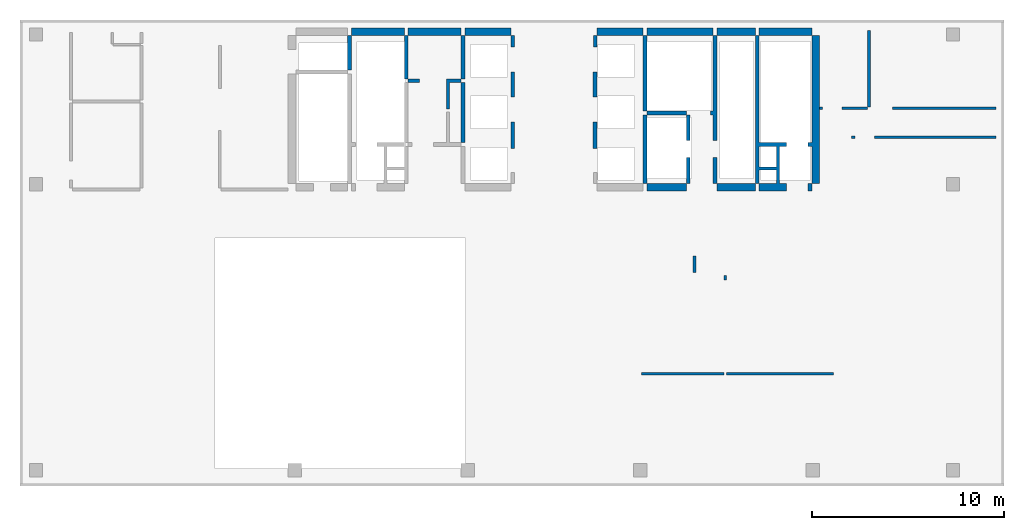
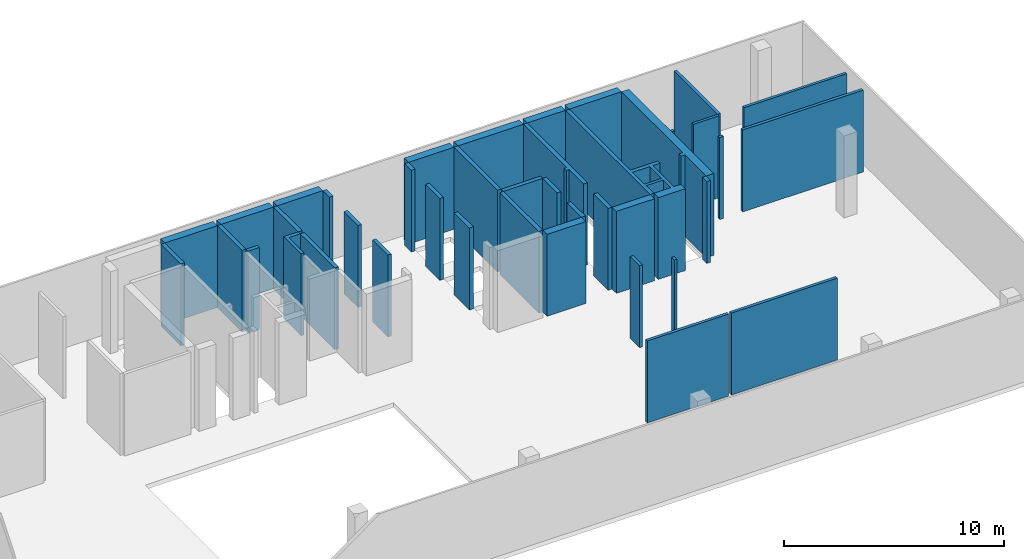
# One storey, part 2 of 3: 41 walls.
"""IFC4 building model written with IfcOpenShell, lengths in millimetres."""

from ifc_helpers import new_model, si_unit, frame, origin, place, context, project, spatial, triangles, element, save


model = new_model("IFC4")

# Units and contexts
model_context = context("Model", 3, precision=0.001, world=origin())
ifc_project = project(units=[si_unit("LENGTHUNIT", "METRE", prefix="MILLI"), si_unit("AREAUNIT", "SQUARE_METRE"), si_unit("VOLUMEUNIT", "CUBIC_METRE")], contexts=[model_context])

# Site, building, storey
site_placement = place(None, origin())
site = spatial("IfcSite", under=ifc_project, at=site_placement, Name="Site", CompositionType="ELEMENT")
building_placement = place(site_placement, origin())
building = spatial("IfcBuilding", under=site, at=building_placement, Name="INNOCEAN", CompositionType="ELEMENT")
storey_placement = place(building_placement, frame((0.0, 0.0, 11000.0)))
storey = spatial("IfcBuildingStorey", under=building, at=storey_placement, Name="F03", CompositionType="ELEMENT", Elevation=11000.0)

# Walls
wall_1_placement = place(storey_placement, origin())
element("IfcWall", 1, at=wall_1_placement, inside=storey, Name="F03_Walls_F03_017", context=model_context, shape_type="Tessellation", body=[
    triangles([(16429.3, 25025.8, 0.0), (16226.2, 25025.8, 0.0), (16226.2, 25025.8, 4550.0), (16429.3, 25025.8, 4550.0), (16429.3, 23222.2, 0.0), (16429.3, 23222.2, 4550.0), (16226.2, 23222.2, 0.0), (16226.2, 23222.2, 4550.0)], [[1, 2, 3], [1, 3, 4], [5, 1, 4], [5, 4, 6], [7, 5, 6], [7, 6, 8], [2, 7, 8], [2, 8, 3], [2, 1, 5], [2, 5, 7], [4, 3, 6], [6, 3, 8]], closed=True),
])
wall_2_placement = place(storey_placement, origin())
element("IfcWall", 2, at=wall_2_placement, inside=storey, Name="F03_Walls_F03_028", context=model_context, shape_type="Tessellation", body=[
    triangles([(24730.0, 19120.0, 0.0), (24730.6, 19120.0, 0.0), (24730.6, 19120.0, 4550.0), (24730.0, 19120.0, 4550.0), (24730.0, 20515.0, 4550.0), (24730.0, 20515.0, 0.0), (24730.6, 20515.0, 0.0), (24730.6, 20515.0, 4550.0), (24730.6, 20516.8, 0.0), (24730.6, 20516.8, 4550.0), (24921.0, 20516.8, 4550.0), (24921.0, 20516.8, 0.0), (24921.0, 19119.7, 0.0), (24921.0, 19119.7, 4550.0), (24730.6, 19119.7, 4550.0), (24730.6, 19119.7, 0.0)], [[1, 2, 3], [1, 3, 4], [1, 4, 5], [6, 1, 5], [7, 6, 5], [7, 5, 8], [9, 7, 8], [9, 8, 10], [9, 10, 11], [12, 9, 11], [13, 12, 11], [13, 11, 14], [13, 14, 15], [16, 13, 15], [2, 16, 15], [2, 15, 3], [2, 13, 16], [7, 12, 13], [7, 13, 2], [6, 2, 1], [6, 7, 2], [9, 12, 7], [14, 3, 15], [11, 8, 14], [14, 8, 3], [3, 5, 4], [8, 5, 3], [11, 10, 8]], closed=True),
])
wall_3_placement = place(storey_placement, origin())
element("IfcWall", 3, at=wall_3_placement, inside=storey, Name="F03_Walls_F03_030", context=model_context, shape_type="Tessellation", body=[
    triangles([(22331.6, 19449.9, 0.0), (22331.6, 22574.4, 0.0), (22331.6, 22574.4, 4550.0), (22331.6, 19449.9, 4550.0), (22128.5, 19449.9, 0.0), (22128.5, 19449.9, 4550.0), (22128.5, 22574.4, 0.0), (22128.5, 22574.4, 4550.0)], [[1, 2, 3], [1, 3, 4], [5, 1, 4], [5, 4, 6], [7, 5, 6], [7, 6, 8], [2, 7, 8], [2, 8, 3], [2, 1, 5], [7, 2, 5], [4, 3, 6], [3, 8, 6]], closed=True),
])
wall_4_placement = place(storey_placement, origin())
element("IfcWall", 4, at=wall_4_placement, inside=storey, Name="F03_Walls_F03_031", context=model_context, shape_type="Tessellation", body=[
    triangles([(22128.5, 22765.0, 0.0), (21366.9, 22765.0, 0.0), (21366.9, 22765.0, 4550.0), (22128.5, 22765.0, 4550.0), (22128.5, 22574.4, 0.0), (22128.5, 22574.4, 4550.0), (21519.3, 22574.4, 0.0), (21519.3, 22574.4, 4550.0), (21519.3, 21177.3, 4550.0), (21519.3, 21177.3, 0.0), (21366.9, 21177.3, 0.0), (21366.9, 21177.3, 4550.0), (21366.9, 22574.4, 4550.0), (21366.9, 22574.4, 0.0)], [[1, 2, 3], [1, 3, 4], [5, 1, 4], [5, 4, 6], [7, 5, 6], [7, 6, 8], [7, 8, 9], [10, 7, 9], [11, 10, 9], [11, 9, 12], [11, 12, 13], [14, 11, 13], [2, 14, 13], [2, 13, 3], [7, 1, 5], [14, 7, 10], [14, 10, 11], [2, 1, 7], [2, 7, 14], [4, 8, 6], [8, 13, 9], [9, 13, 12], [4, 3, 8], [8, 3, 13]], closed=True),
])
wall_5_placement = place(storey_placement, origin())
element("IfcWall", 5, at=wall_5_placement, inside=storey, Name="F03_Walls_F03_032", context=model_context, shape_type="Tessellation", body=[
    triangles([(24730.6, 23120.6, 0.0), (24730.6, 23120.0, 0.0), (24730.6, 23120.0, 4550.0), (24730.6, 23120.6, 4550.0), (24921.0, 23120.6, 4550.0), (24921.0, 23120.6, 0.0), (24921.0, 21825.1, 0.0), (24921.0, 21825.1, 4550.0), (24920.0, 21825.1, 0.0), (24920.0, 21825.1, 4550.0), (24920.0, 21825.0, 0.0), (24920.0, 21825.0, 4550.0), (24730.0, 21825.0, 0.0), (24730.0, 21825.0, 4550.0), (24730.0, 23120.0, 0.0), (24730.0, 23120.0, 4550.0)], [[1, 2, 3], [1, 3, 4], [1, 4, 5], [6, 1, 5], [7, 6, 5], [7, 5, 8], [9, 7, 8], [9, 8, 10], [11, 9, 10], [11, 10, 12], [13, 11, 12], [13, 12, 14], [15, 13, 14], [15, 14, 16], [2, 15, 16], [2, 16, 3], [13, 9, 11], [6, 7, 9], [2, 6, 9], [2, 9, 13], [1, 6, 2], [15, 2, 13], [10, 14, 12], [8, 5, 10], [5, 3, 10], [10, 3, 14], [5, 4, 3], [3, 16, 14]], closed=True),
])
wall_6_placement = place(storey_placement, origin())
element("IfcWall", 6, at=wall_6_placement, inside=storey, Name="F03_Walls_F03_033", context=model_context, shape_type="Tessellation", body=[
    triangles([(19374.1, 22574.4, 0.0), (19970.7, 22574.4, 0.0), (19970.7, 22574.4, 4550.0), (19374.1, 22574.4, 4550.0), (19374.1, 22765.0, 0.0), (19374.1, 22765.0, 4550.0), (19970.7, 22765.0, 0.0), (19970.7, 22765.0, 4550.0)], [[1, 2, 3], [1, 3, 4], [5, 1, 4], [5, 4, 6], [7, 5, 6], [7, 6, 8], [2, 7, 8], [2, 8, 3], [5, 2, 1], [5, 7, 2], [3, 6, 4], [8, 6, 3]], closed=True),
])
wall_7_placement = place(storey_placement, origin())
element("IfcWall", 7, at=wall_7_placement, inside=storey, Name="F03_Walls_F03_034", context=model_context, shape_type="Tessellation", body=[
    triangles([(19374.1, 22765.0, 0.0), (19374.1, 25025.8, 0.0), (19374.1, 25025.8, 4550.0), (19374.1, 22765.0, 4550.0), (19183.7, 22765.0, 4550.0), (19183.7, 22765.0, 0.0), (19183.7, 25025.8, 0.0), (19183.7, 25025.8, 4550.0)], [[1, 2, 3], [1, 3, 4], [1, 4, 5], [6, 1, 5], [7, 6, 5], [7, 5, 8], [7, 8, 3], [2, 7, 3], [7, 2, 1], [7, 1, 6], [3, 8, 4], [4, 8, 5]], closed=True),
])
wall_8_placement = place(storey_placement, origin())
element("IfcWall", 8, at=wall_8_placement, inside=storey, Name="F03_Walls_F03_035", context=model_context, shape_type="Tessellation", body=[
    triangles([(22331.6, 22765.0, 0.0), (22331.6, 25025.8, 0.0), (22331.6, 25025.8, 4550.0), (22331.6, 22765.0, 4550.0), (22128.5, 22765.0, 0.0), (22128.5, 22765.0, 4550.0), (22128.5, 25025.8, 0.0), (22128.5, 25025.8, 4550.0)], [[1, 2, 3], [1, 3, 4], [5, 1, 4], [5, 4, 6], [7, 5, 6], [7, 6, 8], [2, 7, 8], [2, 8, 3], [7, 2, 1], [7, 1, 5], [3, 8, 4], [4, 8, 6]], closed=True),
])
wall_9_placement = place(storey_placement, origin())
element("IfcWall", 9, at=wall_9_placement, inside=storey, Name="F03_Walls_F03_036", context=model_context, shape_type="Tessellation", body=[
    triangles([(19183.7, 25025.8, 0.0), (19183.7, 25419.5, 0.0), (19183.7, 25419.5, 4550.0), (19183.7, 25025.8, 4550.0), (16429.3, 25025.8, 0.0), (16429.3, 25025.8, 4550.0), (16429.3, 25419.5, 0.0), (16429.3, 25419.5, 4550.0)], [[1, 2, 3], [1, 3, 4], [5, 1, 4], [5, 4, 6], [7, 5, 6], [7, 6, 8], [2, 7, 8], [2, 8, 3], [7, 2, 1], [7, 1, 5], [3, 8, 4], [4, 8, 6]], closed=True),
])
wall_10_placement = place(storey_placement, origin())
element("IfcWall", 10, at=wall_10_placement, inside=storey, Name="F03_Walls_F03_037", context=model_context, shape_type="Tessellation", body=[
    triangles([(22128.5, 25025.8, 0.0), (22128.5, 25419.5, 0.0), (22128.5, 25419.5, 4550.0), (22128.5, 25025.8, 4550.0), (19374.1, 25025.8, 0.0), (19374.1, 25025.8, 4550.0), (19374.1, 25419.5, 0.0), (19374.1, 25419.5, 4550.0)], [[1, 2, 3], [1, 3, 4], [5, 1, 4], [5, 4, 6], [7, 5, 6], [7, 6, 8], [2, 7, 8], [2, 8, 3], [7, 2, 1], [7, 1, 5], [3, 8, 4], [4, 8, 6]], closed=True),
])
wall_11_placement = place(storey_placement, origin())
element("IfcWall", 11, at=wall_11_placement, inside=storey, Name="F03_Walls_F03_038", context=model_context, shape_type="Tessellation", body=[
    triangles([(24730.6, 25025.8, 0.0), (24730.6, 25419.5, 0.0), (24730.6, 25419.5, 4550.0), (24730.6, 25025.8, 4550.0), (22331.6, 25025.8, 4550.0), (22331.6, 25025.8, 0.0), (22331.6, 25419.5, 0.0), (22331.6, 25419.5, 4550.0)], [[1, 2, 3], [1, 3, 4], [1, 4, 5], [6, 1, 5], [7, 6, 5], [7, 5, 8], [7, 8, 3], [2, 7, 3], [7, 2, 1], [7, 1, 6], [3, 8, 4], [4, 8, 5]], closed=True),
])
wall_12_placement = place(storey_placement, origin())
element("IfcWall", 12, at=wall_12_placement, inside=storey, Name="F03_Walls_F03_039", context=model_context, shape_type="Tessellation", body=[
    triangles([(35824.5, 7472.6, 0.0), (31546.9, 7472.6, 0.0), (31546.9, 7472.6, 4550.0), (35824.5, 7472.6, 4550.0), (35824.5, 7320.2, 0.0), (35824.5, 7320.2, 4550.0), (31546.9, 7320.2, 0.0), (31546.9, 7320.2, 4550.0)], [[1, 2, 3], [1, 3, 4], [5, 1, 4], [5, 4, 6], [7, 5, 6], [7, 6, 8], [2, 7, 8], [2, 8, 3], [7, 1, 5], [2, 1, 7], [4, 8, 6], [4, 3, 8]], closed=True),
])
wall_13_placement = place(storey_placement, origin())
element("IfcWall", 13, at=wall_13_placement, inside=storey, Name="F03_Walls_F03_040", context=model_context, shape_type="Tessellation", body=[
    triangles([(35964.1, 12273.7, 0.0), (35964.1, 12515.0, 0.0), (35964.1, 12515.0, 4550.0), (35964.1, 12273.7, 4550.0), (35824.5, 12273.7, 0.0), (35824.5, 12273.7, 4550.0), (35824.5, 12515.0, 0.0), (35824.5, 12515.0, 4550.0)], [[1, 2, 3], [1, 3, 4], [5, 1, 4], [5, 4, 6], [7, 5, 6], [7, 6, 8], [2, 7, 8], [2, 8, 3], [7, 2, 1], [7, 1, 5], [3, 8, 4], [4, 8, 6]], closed=True),
])
wall_14_placement = place(storey_placement, origin())
element("IfcWall", 14, at=wall_14_placement, inside=storey, Name="F03_Walls_F03_041", context=model_context, shape_type="Tessellation", body=[
    triangles([(34377.5, 12667.4, 0.0), (34377.5, 13518.4, 0.0), (34377.5, 13518.4, 4550.0), (34377.5, 12667.4, 4550.0), (34225.2, 12667.4, 0.0), (34225.2, 12667.4, 4550.0), (34225.2, 13518.4, 0.0), (34225.2, 13518.4, 4550.0)], [[1, 2, 3], [1, 3, 4], [5, 1, 4], [5, 4, 6], [7, 5, 6], [7, 6, 8], [2, 7, 8], [2, 8, 3], [7, 2, 1], [7, 1, 5], [3, 8, 4], [4, 8, 6]], closed=True),
])
wall_15_placement = place(storey_placement, origin())
element("IfcWall", 15, at=wall_15_placement, inside=storey, Name="F03_Walls_F03_043", context=model_context, shape_type="Tessellation", body=[
    triangles([(33869.8, 16922.4, 0.0), (33869.8, 17316.1, 0.0), (33869.8, 17316.1, 4550.0), (33869.8, 16922.4, 4550.0), (31826.2, 16922.4, 0.0), (31826.2, 16922.4, 4550.0), (31826.2, 17316.1, 0.0), (31826.2, 17316.1, 4550.0)], [[1, 2, 3], [1, 3, 4], [5, 1, 4], [5, 4, 6], [7, 5, 6], [7, 6, 8], [2, 7, 8], [2, 8, 3], [7, 2, 1], [7, 1, 5], [3, 8, 4], [4, 8, 6]], closed=True),
])
wall_16_placement = place(storey_placement, origin())
element("IfcWall", 16, at=wall_16_placement, inside=storey, Name="F03_Walls_F03_044", context=model_context, shape_type="Tessellation", body=[
    triangles([(37474.6, 16922.4, 0.0), (37474.6, 17316.1, 0.0), (37474.6, 17316.1, 4550.0), (37474.6, 16922.4, 4550.0), (35469.1, 16922.4, 4550.0), (35469.1, 16922.4, 0.0), (35469.1, 17316.1, 0.0), (35469.1, 17316.1, 4550.0)], [[1, 2, 3], [1, 3, 4], [1, 4, 5], [6, 1, 5], [7, 6, 5], [7, 5, 8], [7, 8, 3], [2, 7, 3], [7, 2, 1], [7, 1, 6], [3, 8, 4], [4, 8, 5]], closed=True),
])
wall_17_placement = place(storey_placement, origin())
element("IfcWall", 17, at=wall_17_placement, inside=storey, Name="F03_Walls_F03_047", context=model_context, shape_type="Tessellation", body=[
    triangles([(34072.9, 17316.1, 0.0), (34072.9, 18649.7, 0.0), (34072.9, 18649.7, 4550.0), (34072.9, 17316.1, 4550.0), (33869.8, 17316.1, 0.0), (33869.8, 17316.1, 4550.0), (33869.8, 18649.7, 0.0), (33869.8, 18649.7, 4550.0)], [[1, 2, 3], [1, 3, 4], [5, 1, 4], [5, 4, 6], [7, 5, 6], [7, 6, 8], [2, 7, 8], [2, 8, 3], [7, 2, 1], [7, 1, 5], [3, 8, 4], [4, 8, 6]], closed=True),
])
wall_18_placement = place(storey_placement, origin())
element("IfcWall", 18, at=wall_18_placement, inside=storey, Name="F03_Walls_F03_048", context=model_context, shape_type="Tessellation", body=[
    triangles([(35469.1, 17316.1, 0.0), (35469.1, 18649.7, 0.0), (35469.1, 18649.7, 4550.0), (35469.1, 17316.1, 4550.0), (35266.0, 17316.1, 0.0), (35266.0, 17316.1, 4550.0), (35266.0, 18649.7, 0.0), (35266.0, 18649.7, 4550.0)], [[1, 2, 3], [1, 3, 4], [5, 1, 4], [5, 4, 6], [7, 5, 6], [7, 6, 8], [2, 7, 8], [2, 8, 3], [7, 2, 1], [7, 1, 5], [3, 8, 4], [4, 8, 6]], closed=True),
])
wall_19_placement = place(storey_placement, origin())
element("IfcWall", 19, at=wall_19_placement, inside=storey, Name="F03_Walls_F03_049", context=model_context, shape_type="Tessellation", body=[
    triangles([(31826.2, 20872.5, 0.0), (31826.2, 20872.5, 4550.0), (31826.2, 17316.1, 4550.0), (31826.2, 17316.1, 0.0), (31623.1, 17316.1, 0.0), (31623.1, 17316.1, 4550.0), (31623.1, 20872.5, 4550.0), (31623.1, 20872.5, 0.0)], [[1, 2, 3], [4, 1, 3], [5, 4, 3], [5, 3, 6], [5, 6, 7], [8, 5, 7], [1, 8, 7], [1, 7, 2], [8, 1, 4], [8, 4, 5], [2, 7, 3], [3, 7, 6]], closed=True),
])
wall_20_placement = place(storey_placement, origin())
element("IfcWall", 20, at=wall_20_placement, inside=storey, Name="F03_Walls_F03_050", context=model_context, shape_type="Tessellation", body=[
    triangles([(29224.0, 19119.7, 0.0), (29224.0, 19120.0, 0.0), (29224.0, 19120.0, 4550.0), (29224.0, 19119.7, 4550.0), (29020.9, 19119.7, 0.0), (29020.9, 19119.7, 4550.0), (29020.9, 19120.0, 0.0), (29020.9, 19120.0, 4550.0), (29020.0, 19120.0, 4550.0), (29020.0, 19120.0, 0.0), (29020.0, 20515.0, 4550.0), (29020.0, 20515.0, 0.0), (29020.9, 20515.0, 4550.0), (29020.9, 20515.0, 0.0), (29020.9, 20516.8, 0.0), (29020.9, 20516.8, 4550.0), (29224.0, 20516.8, 0.0), (29224.0, 20516.8, 4550.0), (29224.0, 20515.0, 0.0), (29224.0, 20515.0, 4550.0), (29225.0, 20515.0, 0.0), (29225.0, 20515.0, 4550.0), (29225.0, 19120.0, 4550.0), (29225.0, 19120.0, 0.0)], [[1, 2, 3], [1, 3, 4], [5, 1, 4], [5, 4, 6], [7, 5, 6], [7, 6, 8], [7, 8, 9], [10, 7, 9], [10, 9, 11], [12, 10, 11], [12, 11, 13], [14, 12, 13], [15, 14, 13], [15, 13, 16], [17, 15, 16], [17, 16, 18], [19, 17, 18], [19, 18, 20], [21, 19, 20], [21, 20, 22], [21, 22, 23], [24, 21, 23], [2, 24, 23], [2, 23, 3], [7, 2, 1], [7, 1, 5], [19, 21, 24], [19, 24, 2], [19, 2, 7], [14, 19, 7], [12, 7, 10], [12, 14, 7], [15, 17, 19], [15, 19, 14], [3, 8, 4], [4, 8, 6], [22, 20, 23], [23, 20, 3], [3, 20, 8], [20, 13, 8], [8, 11, 9], [13, 11, 8], [18, 16, 20], [20, 16, 13]], closed=True),
])
wall_21_placement = place(storey_placement, origin())
element("IfcWall", 21, at=wall_21_placement, inside=storey, Name="F03_Walls_F03_051", context=model_context, shape_type="Tessellation", body=[
    triangles([(33869.8, 19551.5, 0.0), (34072.9, 19551.5, 0.0), (34072.9, 19551.5, 4550.0), (33869.8, 19551.5, 4550.0), (33869.8, 20872.5, 0.0), (33869.8, 20872.5, 4550.0), (34072.9, 20872.5, 0.0), (34072.9, 20872.5, 4550.0)], [[1, 2, 3], [1, 3, 4], [5, 1, 4], [5, 4, 6], [7, 5, 6], [7, 6, 8], [2, 7, 8], [2, 8, 3], [5, 2, 1], [5, 7, 2], [3, 6, 4], [8, 6, 3]], closed=True),
])
wall_22_placement = place(storey_placement, origin())
element("IfcWall", 22, at=wall_22_placement, inside=storey, Name="F03_Walls_F03_052", context=model_context, shape_type="Tessellation", body=[
    triangles([(35266.0, 21075.7, 0.0), (35126.4, 21075.7, 0.0), (35126.4, 21075.7, 4550.0), (35266.0, 21075.7, 4550.0), (35266.0, 25025.8, 0.0), (35266.0, 25025.8, 4550.0), (35469.1, 25025.8, 0.0), (35469.1, 25025.8, 4550.0), (35469.1, 21075.7, 0.0), (35469.1, 21075.7, 4550.0), (35469.1, 20872.5, 0.0), (35469.1, 20872.5, 4550.0), (35469.1, 19551.5, 0.0), (35469.1, 19551.5, 4550.0), (35266.0, 19551.5, 0.0), (35266.0, 19551.5, 4550.0), (35266.0, 20872.5, 0.0), (35266.0, 20872.5, 4550.0), (35126.4, 20872.5, 0.0), (35126.4, 20872.5, 4550.0)], [[1, 2, 3], [1, 3, 4], [5, 1, 4], [5, 4, 6], [7, 5, 6], [7, 6, 8], [9, 7, 8], [9, 8, 10], [11, 9, 10], [11, 10, 12], [13, 11, 12], [13, 12, 14], [15, 13, 14], [15, 14, 16], [17, 15, 16], [17, 16, 18], [19, 17, 18], [19, 18, 20], [2, 19, 20], [2, 20, 3], [17, 11, 13], [17, 13, 15], [9, 11, 17], [1, 9, 17], [2, 17, 19], [2, 1, 17], [5, 7, 9], [5, 9, 1], [12, 18, 14], [14, 18, 16], [12, 10, 18], [10, 4, 18], [18, 3, 20], [4, 3, 18], [8, 6, 10], [10, 6, 4]], closed=True),
])
wall_23_placement = place(storey_placement, origin())
element("IfcWall", 23, at=wall_23_placement, inside=storey, Name="F03_Walls_F03_053", context=model_context, shape_type="Tessellation", body=[
    triangles([(33869.8, 20872.5, 0.0), (33869.8, 21075.7, 0.0), (33869.8, 21075.7, 4550.0), (33869.8, 20872.5, 4550.0), (31826.2, 20872.5, 0.0), (31826.2, 20872.5, 4550.0), (31826.2, 21075.7, 0.0), (31826.2, 21075.7, 4550.0)], [[1, 2, 3], [1, 3, 4], [5, 1, 4], [5, 4, 6], [7, 5, 6], [7, 6, 8], [2, 7, 8], [2, 8, 3], [7, 2, 1], [7, 1, 5], [3, 8, 4], [4, 8, 6]], closed=True),
])
wall_24_placement = place(storey_placement, origin())
element("IfcWall", 24, at=wall_24_placement, inside=storey, Name="F03_Walls_F03_054", context=model_context, shape_type="Tessellation", body=[
    triangles([(29225.0, 21825.0, 0.0), (29225.0, 23120.0, 0.0), (29225.0, 23120.0, 4550.0), (29225.0, 21825.0, 4550.0), (29020.0, 21825.0, 0.0), (29020.0, 21825.0, 4550.0), (29020.0, 23120.0, 0.0), (29020.0, 23120.0, 4550.0), (29020.9, 23120.0, 4550.0), (29020.9, 23120.0, 0.0), (29020.9, 23120.6, 0.0), (29020.9, 23120.6, 4550.0), (29224.0, 23120.6, 0.0), (29224.0, 23120.6, 4550.0), (29224.0, 23120.0, 0.0), (29224.0, 23120.0, 4550.0)], [[1, 2, 3], [1, 3, 4], [5, 1, 4], [5, 4, 6], [7, 5, 6], [7, 6, 8], [7, 8, 9], [10, 7, 9], [11, 10, 9], [11, 9, 12], [13, 11, 12], [13, 12, 14], [15, 13, 14], [15, 14, 16], [2, 15, 16], [2, 16, 3], [15, 2, 1], [15, 1, 5], [10, 15, 5], [11, 13, 15], [11, 15, 10], [7, 10, 5], [3, 16, 4], [4, 16, 6], [16, 9, 6], [14, 12, 16], [16, 12, 9], [9, 8, 6]], closed=True),
])
wall_25_placement = place(storey_placement, origin())
element("IfcWall", 25, at=wall_25_placement, inside=storey, Name="F03_Walls_F03_055", context=model_context, shape_type="Tessellation", body=[
    triangles([(31826.2, 25025.8, 0.0), (31623.1, 25025.8, 0.0), (31623.1, 25025.8, 4550.0), (31826.2, 25025.8, 4550.0), (31826.2, 21075.7, 0.0), (31826.2, 21075.7, 4550.0), (31623.1, 21075.7, 0.0), (31623.1, 21075.7, 4550.0)], [[1, 2, 3], [1, 3, 4], [5, 1, 4], [5, 4, 6], [7, 5, 6], [7, 6, 8], [2, 7, 8], [2, 8, 3], [1, 5, 7], [2, 1, 7], [6, 4, 8], [4, 3, 8]], closed=True),
])
wall_26_placement = place(storey_placement, origin())
element("IfcWall", 26, at=wall_26_placement, inside=storey, Name="F03_Walls_F03_056", context=model_context, shape_type="Tessellation", body=[
    triangles([(24921.0, 24416.1, 0.0), (24921.0, 25025.8, 0.0), (24921.0, 25025.8, 4550.0), (24921.0, 24416.1, 4550.0), (24730.6, 24416.1, 4550.0), (24730.6, 24416.1, 0.0), (24730.6, 25025.8, 0.0), (24730.6, 25025.8, 4550.0)], [[1, 2, 3], [1, 3, 4], [1, 4, 5], [6, 1, 5], [7, 6, 5], [7, 5, 8], [7, 8, 3], [2, 7, 3], [7, 2, 1], [7, 1, 6], [3, 8, 4], [4, 8, 5]], closed=True),
])
wall_27_placement = place(storey_placement, origin())
element("IfcWall", 27, at=wall_27_placement, inside=storey, Name="F03_Walls_F03_057", context=model_context, shape_type="Tessellation", body=[
    triangles([(29224.0, 25025.8, 0.0), (29020.9, 25025.8, 0.0), (29020.9, 25025.8, 4550.0), (29224.0, 25025.8, 4550.0), (29224.0, 24416.1, 0.0), (29224.0, 24416.1, 4550.0), (29020.9, 24416.1, 0.0), (29020.9, 24416.1, 4550.0)], [[1, 2, 3], [1, 3, 4], [5, 1, 4], [5, 4, 6], [7, 5, 6], [7, 6, 8], [2, 7, 8], [2, 8, 3], [2, 1, 5], [2, 5, 7], [4, 3, 6], [6, 3, 8]], closed=True),
])
wall_28_placement = place(storey_placement, origin())
element("IfcWall", 28, at=wall_28_placement, inside=storey, Name="F03_Walls_F03_058", context=model_context, shape_type="Tessellation", body=[
    triangles([(29224.0, 25025.8, 0.0), (31623.1, 25025.8, 0.0), (31623.1, 25025.8, 4550.0), (29224.0, 25025.8, 4550.0), (29224.0, 25419.5, 0.0), (29224.0, 25419.5, 4550.0), (31623.1, 25419.5, 0.0), (31623.1, 25419.5, 4550.0)], [[1, 2, 3], [1, 3, 4], [5, 1, 4], [5, 4, 6], [7, 5, 6], [7, 6, 8], [2, 7, 8], [2, 8, 3], [5, 2, 1], [5, 7, 2], [3, 6, 4], [8, 6, 3]], closed=True),
])
wall_29_placement = place(storey_placement, origin())
element("IfcWall", 29, at=wall_29_placement, inside=storey, Name="F03_Walls_F03_059", context=model_context, shape_type="Tessellation", body=[
    triangles([(35266.0, 25025.8, 0.0), (35266.0, 25419.5, 0.0), (35266.0, 25419.5, 4550.0), (35266.0, 25025.8, 4550.0), (31826.2, 25025.8, 0.0), (31826.2, 25025.8, 4550.0), (31826.2, 25419.5, 0.0), (31826.2, 25419.5, 4550.0)], [[1, 2, 3], [1, 3, 4], [5, 1, 4], [5, 4, 6], [7, 5, 6], [7, 6, 8], [2, 7, 8], [2, 8, 3], [7, 2, 1], [7, 1, 5], [3, 8, 4], [4, 8, 6]], closed=True),
])
wall_30_placement = place(storey_placement, origin())
element("IfcWall", 30, at=wall_30_placement, inside=storey, Name="F03_Walls_F03_060", context=model_context, shape_type="Tessellation", body=[
    triangles([(37474.6, 25025.8, 0.0), (37474.6, 25419.5, 0.0), (37474.6, 25419.5, 4550.0), (37474.6, 25025.8, 4550.0), (35469.1, 25025.8, 4550.0), (35469.1, 25025.8, 0.0), (35469.1, 25419.5, 0.0), (35469.1, 25419.5, 4550.0)], [[1, 2, 3], [1, 3, 4], [1, 4, 5], [6, 1, 5], [7, 6, 5], [7, 5, 8], [7, 8, 3], [2, 7, 3], [7, 2, 1], [7, 1, 6], [3, 8, 4], [4, 8, 5]], closed=True),
])
wall_31_placement = place(storey_placement, origin())
element("IfcWall", 31, at=wall_31_placement, inside=storey, Name="F03_Walls_F03_061", context=model_context, shape_type="Tessellation", body=[
    triangles([(41536.5, 7472.6, 0.0), (35964.1, 7472.6, 0.0), (35964.1, 7472.6, 4550.0), (41536.5, 7472.6, 4550.0), (41536.5, 7320.2, 0.0), (41536.5, 7320.2, 4550.0), (35964.1, 7320.2, 0.0), (35964.1, 7320.2, 4550.0)], [[1, 2, 3], [1, 3, 4], [5, 1, 4], [5, 4, 6], [7, 5, 6], [7, 6, 8], [2, 7, 8], [2, 8, 3], [7, 1, 5], [2, 1, 7], [4, 8, 6], [4, 3, 8]], closed=True),
])
wall_32_placement = place(storey_placement, origin())
element("IfcWall", 32, at=wall_32_placement, inside=storey, Name="F03_Walls_F03_062", context=model_context, shape_type="Tessellation", body=[
    triangles([(37474.6, 25025.8, 0.0), (37474.6, 19449.9, 0.0), (37474.6, 19449.9, 4550.0), (37474.6, 25025.8, 4550.0), (37474.6, 17316.1, 0.0), (37474.6, 17316.1, 4550.0), (37665.0, 17316.1, 0.0), (37665.0, 17316.1, 4550.0), (37665.0, 16922.4, 0.0), (37665.0, 16922.4, 4550.0), (39099.4, 16922.4, 0.0), (39099.4, 16922.4, 4550.0), (39099.4, 17316.1, 0.0), (39099.4, 17316.1, 4550.0), (38720.0, 17316.1, 0.0), (38720.0, 17316.1, 4550.0), (38720.0, 19245.0, 0.0), (38720.0, 19245.0, 4550.0), (39100.0, 19245.0, 0.0), (39100.0, 19245.0, 4550.0), (39100.0, 19450.0, 0.0), (39100.0, 19450.0, 4550.0), (37665.0, 19450.0, 0.0), (37665.0, 19450.0, 4550.0), (37665.0, 25025.8, 0.0), (37665.0, 25025.8, 4550.0), (37665.0, 18014.7, 0.0), (37665.0, 18014.7, 4550.0), (38565.0, 18014.7, 0.0), (38565.0, 18014.7, 4550.0), (38565.0, 17316.1, 0.0), (38565.0, 17316.1, 4550.0), (37665.0, 18167.1, 0.0), (37665.0, 19245.0, 0.0), (37665.0, 19245.0, 4550.0), (37665.0, 18167.1, 4550.0), (38565.0, 19245.0, 0.0), (38565.0, 19245.0, 4550.0), (38565.0, 18167.1, 0.0), (38565.0, 18167.1, 4550.0)], [[1, 2, 3], [1, 3, 4], [2, 5, 6], [2, 6, 3], [7, 8, 6], [5, 7, 6], [7, 9, 10], [7, 10, 8], [9, 11, 12], [9, 12, 10], [11, 13, 14], [11, 14, 12], [15, 16, 14], [13, 15, 14], [15, 17, 18], [15, 18, 16], [17, 19, 20], [17, 20, 18], [19, 21, 22], [19, 22, 20], [23, 24, 22], [21, 23, 22], [23, 25, 26], [23, 26, 24], [1, 4, 26], [25, 1, 26], [7, 27, 28], [7, 28, 8], [27, 29, 30], [27, 30, 28], [29, 31, 32], [29, 32, 30], [31, 7, 8], [31, 8, 32], [33, 34, 35], [33, 35, 36], [34, 37, 38], [34, 38, 35], [37, 39, 40], [37, 40, 38], [39, 33, 36], [39, 36, 40], [15, 13, 11], [31, 15, 11], [9, 31, 11], [29, 15, 31], [7, 31, 9], [27, 7, 5], [33, 29, 27], [33, 39, 29], [33, 27, 5], [17, 21, 19], [37, 17, 39], [37, 21, 17], [23, 37, 34], [23, 21, 37], [2, 34, 33], [2, 23, 34], [2, 33, 5], [1, 25, 23], [1, 23, 2], [17, 15, 29], [17, 29, 39], [14, 16, 12], [16, 32, 12], [32, 10, 12], [16, 30, 32], [32, 8, 10], [8, 28, 6], [30, 36, 28], [40, 36, 30], [28, 36, 6], [22, 18, 20], [18, 38, 40], [22, 38, 18], [38, 24, 35], [22, 24, 38], [35, 3, 36], [24, 3, 35], [36, 3, 6], [26, 4, 24], [24, 4, 3], [16, 18, 30], [30, 18, 40]], closed=True),
])
wall_33_placement = place(storey_placement, origin())
element("IfcWall", 33, at=wall_33_placement, inside=storey, Name="F03_Walls_F03_063", context=model_context, shape_type="Tessellation", body=[
    triangles([(40419.5, 16922.4, 0.0), (40419.5, 17316.1, 0.0), (40419.5, 17316.1, 4550.0), (40419.5, 16922.4, 4550.0), (40216.4, 16922.4, 0.0), (40216.4, 16922.4, 4550.0), (40216.4, 17316.1, 0.0), (40216.4, 17316.1, 4550.0)], [[1, 2, 3], [1, 3, 4], [5, 1, 4], [5, 4, 6], [7, 5, 6], [7, 6, 8], [2, 7, 8], [2, 8, 3], [7, 2, 1], [7, 1, 5], [3, 8, 4], [4, 8, 6]], closed=True),
])
wall_34_placement = place(storey_placement, origin())
element("IfcWall", 34, at=wall_34_placement, inside=storey, Name="F03_Walls_F03_064", context=model_context, shape_type="Tessellation", body=[
    triangles([(40215.0, 19450.0, 0.0), (40215.0, 19245.0, 0.0), (40215.0, 19245.0, 4550.0), (40215.0, 19450.0, 4550.0), (40419.5, 19450.0, 0.0), (40419.5, 19450.0, 4550.0), (40419.5, 25025.8, 0.0), (40419.5, 25025.8, 4550.0), (40813.0, 25025.8, 0.0), (40813.0, 25025.8, 4550.0), (40813.0, 19449.9, 4550.0), (40813.0, 19449.9, 0.0), (40813.0, 17316.1, 0.0), (40813.0, 17316.1, 4550.0), (40419.5, 17316.1, 0.0), (40419.5, 17316.1, 4550.0), (40419.5, 19245.0, 0.0), (40419.5, 19245.0, 4550.0)], [[1, 2, 3], [1, 3, 4], [5, 1, 4], [5, 4, 6], [7, 5, 6], [7, 6, 8], [9, 7, 8], [9, 8, 10], [11, 9, 10], [12, 9, 11], [13, 12, 11], [13, 11, 14], [15, 13, 14], [15, 14, 16], [17, 15, 16], [17, 16, 18], [2, 17, 18], [2, 18, 3], [17, 12, 13], [17, 13, 15], [5, 12, 17], [1, 17, 2], [1, 5, 17], [9, 12, 5], [7, 9, 5], [11, 18, 14], [14, 18, 16], [11, 6, 18], [18, 4, 3], [6, 4, 18], [11, 10, 6], [10, 8, 6]], closed=True),
])
wall_35_placement = place(storey_placement, origin())
element("IfcWall", 35, at=wall_35_placement, inside=storey, Name="F03_Walls_F03_065", context=model_context, shape_type="Tessellation", body=[
    triangles([(42666.2, 19640.4, 0.0), (42666.2, 19792.9, 0.0), (42666.2, 19792.9, 4550.0), (42666.2, 19640.4, 4550.0), (42463.1, 19640.4, 0.0), (42463.1, 19640.4, 4550.0), (42463.1, 19792.9, 0.0), (42463.1, 19792.9, 4550.0)], [[1, 2, 3], [1, 3, 4], [5, 1, 4], [5, 4, 6], [7, 5, 6], [7, 6, 8], [2, 7, 8], [2, 8, 3], [7, 2, 1], [7, 1, 5], [3, 8, 4], [4, 8, 6]], closed=True),
])
wall_36_placement = place(storey_placement, origin())
element("IfcWall", 36, at=wall_36_placement, inside=storey, Name="F03_Walls_F03_066", context=model_context, shape_type="Tessellation", body=[
    triangles([(43668.9, 19792.9, 0.0), (43668.9, 19640.4, 0.0), (43668.9, 19640.4, 4550.0), (43668.9, 19792.9, 4550.0), (43670.0, 19792.9, 0.0), (43670.0, 19792.9, 4550.0), (43670.0, 19795.0, 0.0), (43670.0, 19795.0, 4550.0), (50015.0, 19795.0, 0.0), (50015.0, 19795.0, 4550.0), (50015.0, 19792.9, 0.0), (50015.0, 19792.9, 4550.0), (50015.5, 19792.9, 4550.0), (50015.5, 19792.9, 0.0), (50015.5, 19640.4, 0.0), (50015.5, 19640.4, 4550.0), (50015.0, 19640.4, 4550.0), (50015.0, 19640.4, 0.0), (50015.0, 19640.0, 0.0), (50015.0, 19640.0, 4550.0), (43670.0, 19640.0, 0.0), (43670.0, 19640.0, 4550.0), (43670.0, 19640.4, 0.0), (43670.0, 19640.4, 4550.0)], [[1, 2, 3], [1, 3, 4], [5, 1, 4], [5, 4, 6], [7, 5, 6], [7, 6, 8], [9, 7, 8], [9, 8, 10], [11, 9, 10], [11, 10, 12], [11, 12, 13], [14, 11, 13], [15, 14, 13], [15, 13, 16], [15, 16, 17], [18, 15, 17], [19, 18, 17], [19, 17, 20], [21, 19, 20], [21, 20, 22], [23, 21, 22], [23, 22, 24], [2, 23, 24], [2, 24, 3], [14, 15, 18], [11, 14, 18], [23, 18, 19], [23, 19, 21], [5, 11, 18], [5, 18, 23], [1, 23, 2], [1, 5, 23], [7, 9, 11], [7, 11, 5], [16, 13, 17], [13, 12, 17], [17, 24, 20], [20, 24, 22], [12, 6, 17], [17, 6, 24], [24, 4, 3], [6, 4, 24], [10, 8, 12], [12, 8, 6]], closed=True),
])
wall_37_placement = place(storey_placement, origin())
element("IfcWall", 37, at=wall_37_placement, inside=storey, Name="F03_Walls_F03_067", context=model_context, shape_type="Tessellation", body=[
    triangles([(40815.0, 21150.0, 0.0), (40965.0, 21150.0, 0.0), (40965.0, 21150.0, 4550.0), (40815.0, 21150.0, 4550.0), (40815.0, 21290.0, 0.0), (40815.0, 21290.0, 4550.0), (40965.0, 21290.0, 0.0), (40965.0, 21290.0, 4550.0)], [[1, 2, 3], [1, 3, 4], [5, 1, 4], [5, 4, 6], [7, 5, 6], [7, 6, 8], [2, 7, 8], [2, 8, 3], [5, 2, 1], [5, 7, 2], [3, 6, 4], [8, 6, 3]], closed=True),
])
wall_38_placement = place(storey_placement, origin())
element("IfcWall", 38, at=wall_38_placement, inside=storey, Name="F03_Walls_F03_068", context=model_context, shape_type="Tessellation", body=[
    triangles([(44620.0, 21150.0, 4550.0), (50015.0, 21150.0, 0.0), (50015.0, 21150.0, 4550.0), (44620.0, 21150.0, 0.0), (44620.0, 21290.0, 0.0), (44620.0, 21290.0, 4550.0), (44620.9, 21290.0, 4550.0), (44620.9, 21290.0, 0.0), (44620.9, 21291.6, 4550.0), (44620.9, 21291.6, 0.0), (50015.5, 21291.6, 0.0), (50015.5, 21291.6, 4550.0), (50015.5, 21151.9, 0.0), (50015.5, 21151.9, 4550.0), (50015.0, 21151.9, 4550.0), (50015.0, 21151.9, 0.0)], [[1, 2, 3], [4, 2, 1], [5, 4, 1], [5, 1, 6], [5, 6, 7], [8, 5, 7], [8, 7, 9], [10, 8, 9], [11, 10, 9], [11, 9, 12], [13, 11, 12], [13, 12, 14], [13, 14, 15], [16, 13, 15], [16, 15, 3], [2, 16, 3], [11, 13, 16], [4, 16, 2], [8, 11, 16], [8, 16, 4], [5, 8, 4], [10, 11, 8], [14, 12, 15], [15, 1, 3], [12, 7, 15], [15, 7, 1], [7, 6, 1], [12, 9, 7]], closed=True),
])
wall_39_placement = place(storey_placement, origin())
element("IfcWall", 39, at=wall_39_placement, inside=storey, Name="F03_Walls_F03_069", context=model_context, shape_type="Tessellation", body=[
    triangles([(43313.5, 21151.9, 0.0), (43313.5, 21291.6, 0.0), (43313.5, 21291.6, 4550.0), (43313.5, 21151.9, 4550.0), (41968.0, 21151.9, 0.0), (41968.0, 21151.9, 4550.0), (41968.0, 21291.6, 0.0), (41968.0, 21291.6, 4550.0)], [[1, 2, 3], [1, 3, 4], [5, 1, 4], [5, 4, 6], [7, 5, 6], [7, 6, 8], [2, 7, 8], [2, 8, 3], [7, 2, 1], [7, 1, 5], [3, 8, 4], [4, 8, 6]], closed=True),
])
wall_40_placement = place(storey_placement, origin())
element("IfcWall", 40, at=wall_40_placement, inside=storey, Name="F03_Walls_F03_070", context=model_context, shape_type="Tessellation", body=[
    triangles([(43465.8, 25267.1, 0.0), (43465.8, 25267.1, 4550.0), (43465.8, 21291.6, 4550.0), (43465.8, 21291.6, 0.0), (43313.5, 21291.6, 0.0), (43313.5, 21291.6, 4550.0), (43313.5, 25267.1, 4550.0), (43313.5, 25267.1, 0.0)], [[1, 2, 3], [4, 1, 3], [5, 4, 3], [5, 3, 6], [5, 6, 7], [8, 5, 7], [1, 8, 7], [1, 7, 2], [8, 1, 4], [8, 4, 5], [2, 7, 3], [3, 7, 6]], closed=True),
])
wall_41_placement = place(storey_placement, origin())
element("IfcWall", 41, at=wall_41_placement, inside=storey, Name="F03_Walls_F03_071", context=model_context, shape_type="Tessellation", body=[
    triangles([(40419.5, 25025.8, 0.0), (40419.5, 25419.5, 0.0), (40419.5, 25419.5, 4550.0), (40419.5, 25025.8, 4550.0), (37665.0, 25025.8, 0.0), (37665.0, 25025.8, 4550.0), (37665.0, 25419.5, 0.0), (37665.0, 25419.5, 4550.0)], [[1, 2, 3], [1, 3, 4], [5, 1, 4], [5, 4, 6], [7, 5, 6], [7, 6, 8], [2, 7, 8], [2, 8, 3], [7, 2, 1], [7, 1, 5], [3, 8, 4], [4, 8, 6]], closed=True),
])

save(model, "model.ifc")
